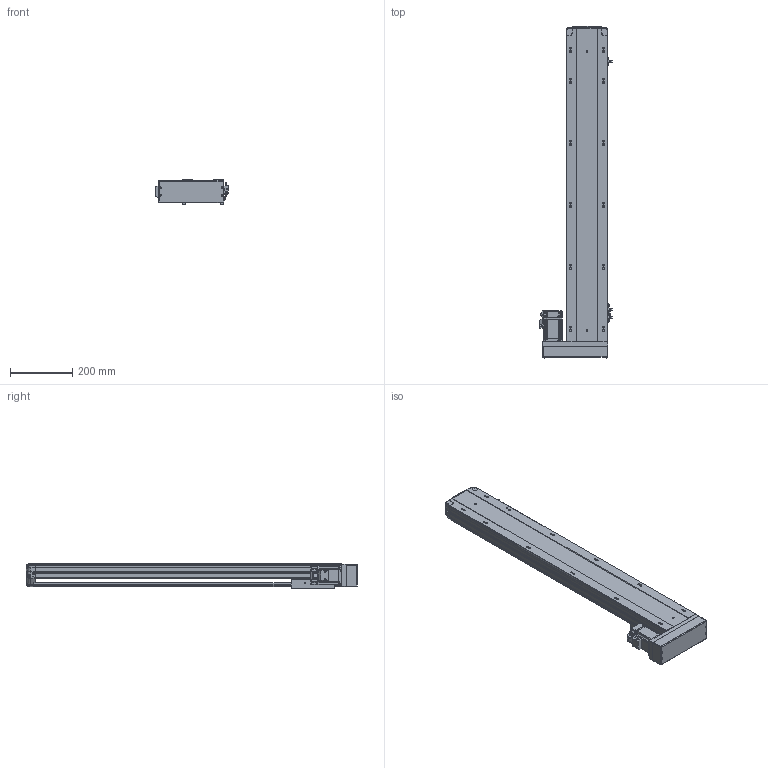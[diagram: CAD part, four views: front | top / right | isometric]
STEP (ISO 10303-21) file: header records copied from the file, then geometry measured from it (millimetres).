
FILE_DESCRIPTION (( 'STEP AP203' ), '1' );
FILE_NAME ('16.STEP', '2020-11-07T01:43:59', ( '' ), ( '' ), 'SwSTEP 2.0', 'SolidWorks 2016', '' );
FILE_SCHEMA (( 'CONFIG_CONTROL_DESIGN' ));
Length unit declared in the file: millimetre
Products named in the file (7): BTH14-BL-BM-BR-菁釱; BTH14-BL-HZ; BTH14-BL-02_100; BTH14-BL-04; 16; BTH14-BL-P20; BTH14-BL-01
Assembly tree (8 placements, depth 2):
  16
    BTH14-BL-BM-BR-菁釱
    BTH14-BL-01
    BTH14-BL-02_100
    BTH14-BL-04  x3
    BTH14-BL-HZ
    BTH14-BL-P20
Bounding box: 233.2 x 1070.67 x 78 mm (x, y, z)
Volume: 4633107.4 mm3; surface area: 1079599.5 mm2
Topology: 19 solids, 19 shells, 2018 faces, 5379 edges, 3447 vertices
Faces by surface type: plane 1076, cylinder 537, bspline 235, cone 118, torus 44, sphere 8
Entity records: 70369 total; most frequent: CARTESIAN_POINT 25913, ORIENTED_EDGE 9562, DIRECTION 8387, EDGE_CURVE 4781, VERTEX_POINT 3087, AXIS2_PLACEMENT_3D 2819, VECTOR 2749, LINE 2749
